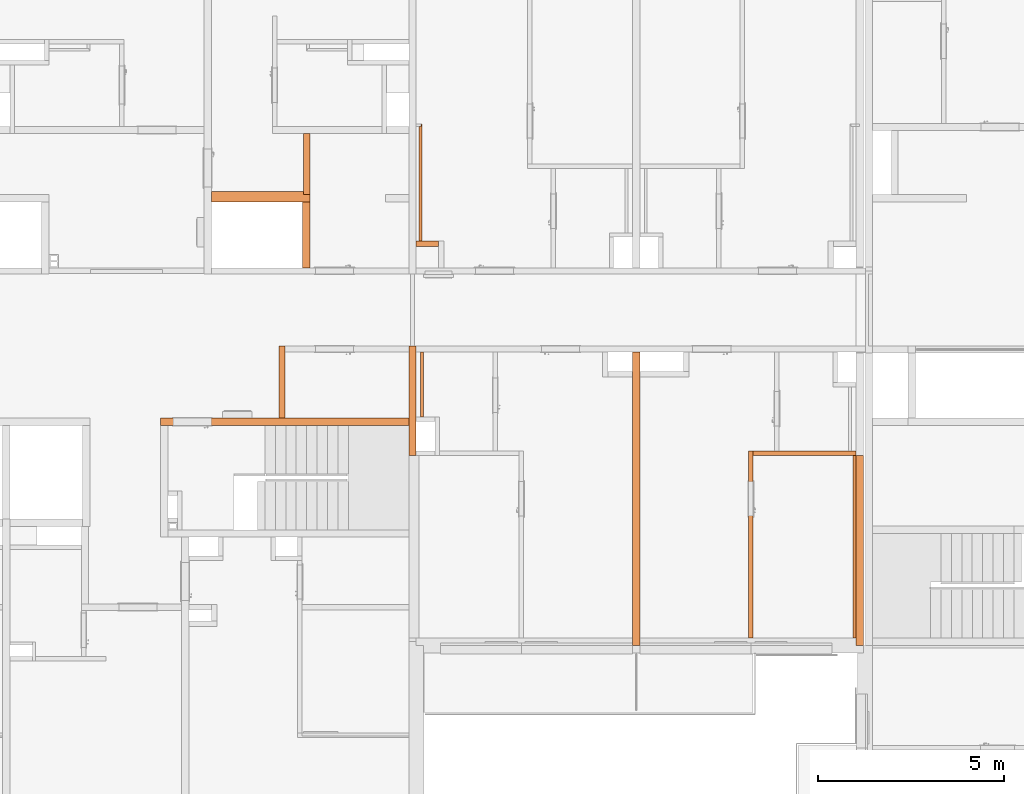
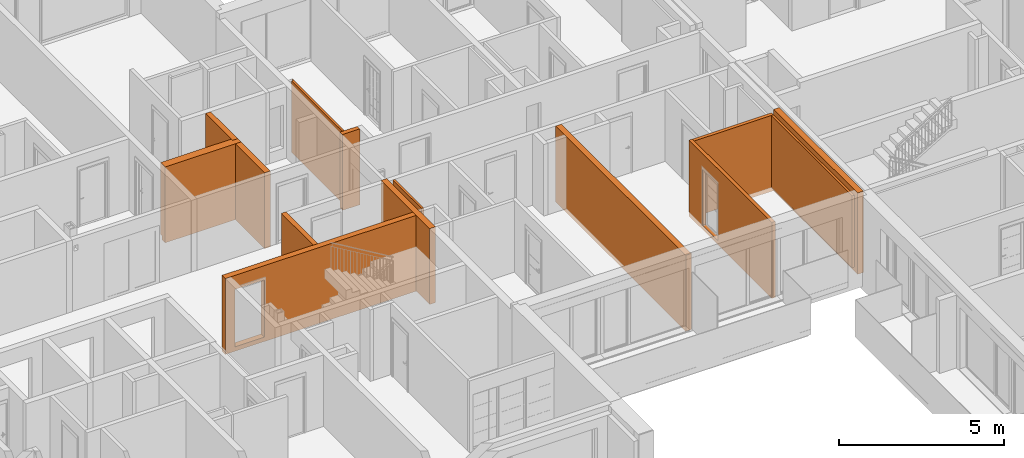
# One storey, part 59 of 67: 13 proxies, 2 openings.
"""IFC2X3 building model written with IfcOpenShell, lengths in millimetres."""

from ifc_helpers import new_model, entity, si_unit, converted_unit, derived_unit, money_unit, direction, frame, origin_with_axes, origin_2d_with_axis, place, context, subcontext, project, spatial, rectangle, extrude, faceted_brep, material, material_list, type_object, element, save


model = new_model("IFC2X3")

# Units and contexts
model_context = context("Model", 3, precision=0.01, world=origin_with_axes(), true_north=direction((0.34421633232, 0.938890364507)))
body_context = subcontext(model_context, "Body", "Model", "MODEL_VIEW")
ifc_project = project(units=[si_unit("LENGTHUNIT", "METRE", prefix="MILLI"), si_unit("AREAUNIT", "SQUARE_METRE"), si_unit("VOLUMEUNIT", "CUBIC_METRE"), converted_unit("PLANEANGLEUNIT", "DEGREE", entity("IfcPlaneAngleMeasure", 0.0174532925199), si_unit("PLANEANGLEUNIT", "RADIAN"), dimensions=[0, 0, 0, 0, 0, 0, 0]), si_unit("SOLIDANGLEUNIT", "STERADIAN"), money_unit("USD"), converted_unit("TIMEUNIT", "Year", entity("IfcTimeMeasure", 31556926.0), si_unit("TIMEUNIT", "SECOND"), dimensions=[0, 0, 1, 0, 0, 0, 0]), si_unit("MASSUNIT", "GRAM", prefix="KILO"), si_unit("THERMODYNAMICTEMPERATUREUNIT", "DEGREE_CELSIUS"), si_unit("LUMINOUSINTENSITYUNIT", "LUMEN"), si_unit("ENERGYUNIT", "JOULE", prefix="MEGA"), derived_unit("THERMALCONDUCTANCEUNIT", [(si_unit("POWERUNIT", "WATT"), 1), (si_unit("LENGTHUNIT", "METRE"), -1), (si_unit("THERMODYNAMICTEMPERATUREUNIT", "KELVIN"), -1)]), derived_unit("SPECIFICHEATCAPACITYUNIT", [(si_unit("ENERGYUNIT", "JOULE"), 1), (si_unit("MASSUNIT", "GRAM", prefix="KILO"), -1), (si_unit("THERMODYNAMICTEMPERATUREUNIT", "KELVIN"), -1)]), derived_unit("MASSDENSITYUNIT", [(si_unit("MASSUNIT", "GRAM", prefix="KILO"), 1), (si_unit("VOLUMEUNIT", "CUBIC_METRE"), -1)])], contexts=[model_context])

# Site, building, storey
site_placement = place(None, origin_with_axes())
site = spatial("IfcSite", under=ifc_project, at=site_placement, Name="USTRONIE MORSKIE", CompositionType="ELEMENT")
building_placement = place(site_placement, origin_with_axes())
building = spatial("IfcBuilding", under=site, at=building_placement, Name="Budynek", CompositionType="ELEMENT")
storey_placement = place(building_placement, frame((0.0, 0.0, 4000.0), z_axis=(0.0, 0.0, 1.0), x_axis=(1.0, 0.0, 0.0)))
storey = spatial("IfcBuildingStorey", under=building, at=storey_placement, Name="PIĘTRO 1", CompositionType="ELEMENT", Elevation=4000.0)

# Proxy
ifc_material_1 = material(Name="Bloczki silikatowe")
building_element_proxy_type_1 = type_object("IfcBuildingElementProxyType", Name="Bloczki silikatowe 120", PredefinedType="NOTDEFINED")
proxy_1_placement = place(storey_placement, frame((408317.920919, 731891.199132, -160.0), z_axis=(0.0, 0.0, 1.0), x_axis=(-1.0, 0.0, 0.0)))
element("IfcBuildingElementProxy", 1, at=proxy_1_placement, inside=storey, type_object=building_element_proxy_type_1, material=ifc_material_1, Name="SW-04", context=body_context, shape_type="Brep", body=[
    faceted_brep([(2860.01935038, 0.0, 2800.0), (100.0, 0.0, 2800.0), (100.0, -120.0, 2800.0), (2860.01935038, -120.0, 2800.0), (2860.01935038, 0.0, 0.0), (100.0, 0.0, 0.0), (100.0, -120.0, 0.0), (2860.01935038, -120.0, 0.0)], [[[0, 1, 2, 3]], [[4, 5, 1, 0]], [[5, 6, 2, 1]], [[3, 2, 6, 7]], [[4, 0, 3, 7]], [[7, 6, 5, 4]]]),
])

# Proxy, opening
proxy_2_placement = place(storey_placement, frame((405397.901569, 731891.199132, -160.0), z_axis=(0.0, 0.0, 1.0), x_axis=(0.0, -1.0, 0.0)))
proxy_2 = element("IfcBuildingElementProxy", 2, at=proxy_2_placement, inside=storey, type_object=building_element_proxy_type_1, material=ifc_material_1, Name="SW-04", context=body_context, shape_type="Brep", body=[
    faceted_brep([(4890.00009633, -60.0, 2800.0), (4890.00009633, 60.0, 2800.0), (-120.0, 60.0, 2800.0), (-120.0, -60.0, 2800.0), (4890.00009633, -60.0, 0.0), (4890.00009633, 60.0, 0.0), (-120.0, 60.0, 0.0), (-120.0, -60.0, 0.0)], [[[0, 1, 2, 3]], [[1, 0, 4, 5]], [[1, 5, 6, 2]], [[7, 3, 2, 6]], [[4, 0, 3, 7]], [[5, 4, 7, 6]]]),
])
opening_1_placement = place(proxy_2_placement, frame((1160.00038806, 0.0, 160.0), z_axis=(0.0, 0.0, 1.0), x_axis=(1.0, 0.0, 0.0)))
element("IfcOpeningElement", 3, at=opening_1_placement, cuts=proxy_2, Name="Dw.3", context=body_context, shape_type="SweptSolid", body=[
    extrude(rectangle(XDim=920.0, YDim=2070.0, at=origin_2d_with_axis()), frame((0.0, 120.0, 1035.0), z_axis=(0.0, 1.0, 0.0), x_axis=(-1.0, 0.0, 0.0)), (0.0, 0.0, -1.0), 360.0),
    extrude(rectangle(XDim=994.0, YDim=2177.0, at=origin_2d_with_axis()), frame((0.0, 60.0, 1088.5), z_axis=(0.0, 1.0, 0.0), x_axis=(-1.0, 0.0, 0.0)), (0.0, 0.0, 1.0), 120.0),
    extrude(rectangle(XDim=994.0, YDim=2177.0, at=origin_2d_with_axis()), frame((0.0, -60.0, 1088.5), z_axis=(0.0, -1.0, 0.0), x_axis=(-1.0, 0.0, 0.0)), (0.0, 0.0, 1.0), 120.0),
])

# Proxies
building_element_proxy_type_2 = type_object("IfcBuildingElementProxyType", Name="Bloczki silikatowe 180", PredefinedType="NOTDEFINED")
proxy_3_placement = place(storey_placement, frame((393567.920919, 738801.199036, -160.0), z_axis=(0.0, 0.0, 1.0), x_axis=(0.0, 1.0, 0.0)))
element("IfcBuildingElementProxy", 4, at=proxy_3_placement, inside=storey, type_object=building_element_proxy_type_2, material=ifc_material_1, Name="SW-02", context=body_context, shape_type="Brep", body=[
    faceted_brep([(1740.0, 180.0, 0.0), (1740.0, 180.0, 2800.0), (1740.0, 0.0, 2800.0), (1740.0, 0.0, 0.0), (100.0, 180.0, 0.0), (100.0, 180.0, 2800.0), (100.0, 0.0, 2800.0), (100.0, 0.0, 0.0)], [[[0, 1, 2, 3]], [[4, 5, 1, 0]], [[5, 6, 2, 1]], [[3, 2, 6, 7]], [[4, 0, 3, 7]], [[7, 6, 5, 4]]]),
])
ifc_material_2 = material(Name="-Pustka powietrzna")
ifc_material_3 = material(Name="Płyta GK")
ifc_material_list_1 = material_list([ifc_material_2, ifc_material_3, ifc_material_3])
building_element_proxy_type_3 = type_object("IfcBuildingElementProxyType", Name="330-SD GK 2-warstwy 75", PredefinedType="NOTDEFINED")
proxy_4_placement = place(storey_placement, frame((396547.898799, 737501.202288, -180.0), z_axis=(0.0, 0.0, 1.0), x_axis=(0.0, 1.0, 0.0)))
element("IfcBuildingElementProxy", 5, at=proxy_4_placement, inside=storey, type_object=building_element_proxy_type_3, material=ifc_material_list_1, Name="Ściana-009", context=body_context, shape_type="Brep", body=[
    faceted_brep([(150.0, 0.0, 180.0), (3220.00000001, 0.0, 180.0), (3220.00000001, 0.0, 2820.0), (150.0, 0.0, 2820.0), (3220.00000001, 50.0, 180.0), (150.0, 50.0, 180.0), (3220.00000001, 50.0, 2820.0), (150.0, 50.0, 2820.0)], [[[0, 1, 2, 3]], [[4, 1, 0, 5]], [[1, 4, 6, 2]], [[6, 7, 3, 2]], [[5, 0, 3, 7]], [[4, 5, 7, 6]]]),
    faceted_brep([(150.0, -12.5, 165.0), (3270.00000001, -12.5, 165.0), (3270.00000001, -12.5, 2820.0), (150.0, -12.5, 2820.0), (3270.00000001, 0.0, 165.0), (150.0, 0.0, 165.0), (3270.00000001, 0.0, 2820.0), (150.0, 0.0, 2820.0)], [[[0, 1, 2, 3]], [[4, 1, 0, 5]], [[1, 4, 6, 2]], [[6, 7, 3, 2]], [[5, 0, 3, 7]], [[4, 5, 7, 6]]]),
    faceted_brep([(150.0, -25.0, 165.0), (3282.50000001, -25.0, 165.0), (3282.50000001, -25.0, 2820.0), (150.0, -25.0, 2820.0), (3282.50000001, -12.5, 165.0), (150.0, -12.5, 165.0), (3282.50000001, -12.5, 2820.0), (150.0, -12.5, 2820.0)], [[[0, 1, 2, 3]], [[4, 1, 0, 5]], [[1, 4, 6, 2]], [[6, 7, 3, 2]], [[5, 0, 3, 7]], [[4, 5, 7, 6]]]),
])
proxy_5_placement = place(storey_placement, frame((396562.908566, 732811.206636, -160.0), z_axis=(0.0, 0.0, 1.0), x_axis=(0.0, 1.0, 0.0)))
element("IfcBuildingElementProxy", 6, at=proxy_5_placement, inside=storey, type_object=building_element_proxy_type_3, material=ifc_material_list_1, Name="Ściana-009", context=body_context, shape_type="Brep", body=[
    faceted_brep([(120.0001558, -25.0, 160.0), (1859.99610152, -25.0, 160.0), (1859.99610152, -25.0, 2800.0), (120.0001558, -25.0, 2800.0), (1859.99611702, 25.0, 160.0), (120.00171322, 25.0, 160.0), (1859.99611702, 25.0, 2800.0), (120.00171322, 25.0, 2800.0)], [[[0, 1, 2, 3]], [[4, 1, 0, 5]], [[1, 4, 6, 2]], [[2, 6, 7, 3]], [[5, 0, 3, 7]], [[4, 5, 7, 6]]]),
    faceted_brep([(119.999766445, -37.5, 145.0), (1859.99609764, -37.5, 145.0), (1859.99609764, -37.5, 2800.0), (119.999766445, -37.5, 2800.0), (1859.99610152, -25.0, 145.0), (120.0001558, -25.0, 145.0), (1859.99610152, -25.0, 2800.0), (120.0001558, -25.0, 2800.0)], [[[0, 1, 2, 3]], [[4, 1, 0, 5]], [[1, 4, 6, 2]], [[2, 6, 7, 3]], [[5, 0, 3, 7]], [[4, 5, 7, 6]]]),
    faceted_brep([(119.99937709, -50.0, 145.0), (1859.99609377, -50.0, 145.0), (1859.99609377, -50.0, 2800.0), (119.99937709, -50.0, 2800.0), (1859.99609764, -37.5, 145.0), (119.999766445, -37.5, 145.0), (1859.99609764, -37.5, 2800.0), (119.999766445, -37.5, 2800.0)], [[[0, 1, 2, 3]], [[4, 1, 0, 5]], [[1, 4, 6, 2]], [[2, 6, 7, 3]], [[5, 0, 3, 7]], [[4, 5, 7, 6]]]),
])
building_element_proxy_type_4 = type_object("IfcBuildingElementProxyType", Name="Bloczki silikatowe 150", PredefinedType="NOTDEFINED")
proxy_6_placement = place(storey_placement, frame((397017.903884, 737501.202288, -160.0), z_axis=(0.0, 0.0, 1.0), x_axis=(-1.0, 0.0, 0.0)))
element("IfcBuildingElementProxy", 7, at=proxy_6_placement, inside=storey, type_object=building_element_proxy_type_4, material=ifc_material_1, Name="SW-03", context=body_context, shape_type="Brep", body=[
    faceted_brep([(599.991772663, 0.0, 0.0), (599.991589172, -150.0, 0.0), (0.00467226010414, -150.0, 0.0), (0.0, 0.0, 0.0), (599.991772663, 0.0, 2800.0), (599.991589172, -150.0, 2800.0), (0.00467226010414, -150.0, 2800.0), (0.0, 0.0, 2800.0)], [[[0, 1, 2, 3]], [[1, 0, 4, 5]], [[1, 5, 6, 2]], [[7, 3, 2, 6]], [[4, 0, 3, 7]], [[5, 4, 7, 6]]]),
])
ifc_material_4 = material(Name="Beton konstrukcyjny B25")
building_element_proxy_type_5 = type_object("IfcBuildingElementProxyType", Name="Beton konstrukcyjny B25 200", PredefinedType="NOTDEFINED")
proxy_7_placement = place(storey_placement, frame((402317.920919, 726901.199036, -160.0), z_axis=(0.0, 0.0, 1.0), x_axis=(0.0, 1.0, 0.0)))
element("IfcBuildingElementProxy", 8, at=proxy_7_placement, inside=storey, type_object=building_element_proxy_type_5, material=ifc_material_4, Name="SW-01", context=body_context, shape_type="Brep", body=[
    faceted_brep([(-100.0, -100.0, 2800.0), (7770.00189405, -100.0, 2800.0), (7770.00195604, 100.0, 2800.0), (-100.0, 100.0, 2800.0), (-100.0, -100.0, 0.0), (7770.00189405, -100.0, 0.0), (7770.00195604, 100.0, 0.0), (-100.0, 100.0, 0.0)], [[[0, 1, 2, 3]], [[4, 5, 1, 0]], [[6, 2, 1, 5]], [[3, 2, 6, 7]], [[7, 4, 0, 3]], [[7, 6, 5, 4]]]),
])
proxy_8_placement = place(storey_placement, frame((396317.920919, 731891.199132, -160.0), z_axis=(0.0, 0.0, 1.0), x_axis=(0.0, 1.0, 0.0)))
element("IfcBuildingElementProxy", 9, at=proxy_8_placement, inside=storey, type_object=building_element_proxy_type_5, material=ifc_material_4, Name="SW-01", context=body_context, shape_type="Brep", body=[
    faceted_brep([(2940.00371943, 100.0, 2800.0), (2860.00368844, 100.0, 2800.0), (2860.00368844, -100.0, 2800.0), (2940.00365744, -100.0, 2800.0), (0.0, 100.0, 0.0), (0.0, 100.0, 2800.0), (2940.00371943, 100.0, 0.0), (0.0, -100.0, 2800.0), (0.0, -100.0, 0.0), (2940.00365744, -100.0, 0.0)], [[[0, 1, 2, 3]], [[4, 5, 1, 0, 6]], [[5, 7, 2, 1]], [[3, 2, 7, 8, 9]], [[3, 9, 6, 0]], [[8, 7, 5, 4]], [[9, 8, 4, 6]]]),
])

# Proxy, opening
proxy_9_placement = place(storey_placement, frame((389657.920919, 732801.199036, -160.0), z_axis=(0.0, 0.0, 1.0), x_axis=(1.0, 0.0, 0.0)))
proxy_9 = element("IfcBuildingElementProxy", 10, at=proxy_9_placement, inside=storey, type_object=building_element_proxy_type_5, material=ifc_material_4, Name="SW-01", context=body_context, shape_type="Brep", body=[
    faceted_brep([(-100.0, 100.0, 2800.0), (0.0, 100.0, 2800.0), (6560.0, 100.0, 2800.0), (6560.0, 100.0, 0.0), (-100.0, 100.0, 0.0), (-100.0, -100.0, 2800.0), (0.0, -100.0, 2800.0), (6560.0, -100.0, 2800.0), (6560.0, -100.0, 0.0), (-100.0, -100.0, 0.0)], [[[0, 1, 2, 3, 4]], [[5, 6, 1, 0]], [[6, 7, 2, 1]], [[3, 2, 7, 8]], [[3, 8, 9, 4]], [[4, 9, 5, 0]], [[8, 7, 6, 5, 9]]]),
])
opening_2_placement = place(proxy_9_placement, frame((750.0, 0.0, 160.0), z_axis=(0.0, 0.0, 1.0), x_axis=(1.0, 0.0, 0.0)))
element("IfcOpeningElement", 11, at=opening_2_placement, cuts=proxy_9, Name="Dw.1'", context=body_context, shape_type="SweptSolid", body=[
    extrude(rectangle(XDim=1020.0, YDim=2120.0, at=origin_2d_with_axis()), frame((0.0, 200.0, 1060.0), z_axis=(0.0, -1.0, 0.0), x_axis=(-1.0, 0.0, 0.0)), (0.0, 0.0, 1.0), 600.0),
    extrude(rectangle(XDim=1094.0, YDim=2227.0, at=origin_2d_with_axis()), frame((0.0, 100.0, 1113.5), z_axis=(0.0, -1.0, 0.0), x_axis=(-1.0, 0.0, 0.0)), (0.0, 0.0, -1.0), 200.0),
    extrude(rectangle(XDim=1094.0, YDim=2227.0, at=origin_2d_with_axis()), frame((0.0, -100.0, 1113.5), z_axis=(0.0, 1.0, 0.0), x_axis=(-1.0, 0.0, 0.0)), (0.0, 0.0, -1.0), 200.0),
])

# Proxies
proxy_10_placement = place(storey_placement, frame((393367.920919, 736851.199036, -160.0), z_axis=(0.0, 0.0, 1.0), x_axis=(0.0, 1.0, 0.0)))
element("IfcBuildingElementProxy", 12, at=proxy_10_placement, inside=storey, type_object=building_element_proxy_type_5, material=ifc_material_4, Name="SW-01", context=body_context, shape_type="Brep", body=[
    faceted_brep([(1850.0, 0.0, 0.0), (1850.0, 0.0, 2800.0), (1850.0, -200.0, 2800.0), (1850.0, -200.0, 0.0), (80.0, 0.0, 0.0), (80.0, 0.0, 2800.0), (80.0, -200.0, 2800.0), (80.0, -200.0, 0.0)], [[[0, 1, 2, 3]], [[4, 5, 1, 0]], [[5, 6, 2, 1]], [[3, 2, 6, 7]], [[4, 0, 3, 7]], [[7, 6, 5, 4]]]),
])
building_element_proxy_type_6 = type_object("IfcBuildingElementProxyType", Name="Beton konstrukcyjny B25 160", PredefinedType="NOTDEFINED")
proxy_11_placement = place(storey_placement, frame((392817.920919, 732801.199036, -160.0), z_axis=(0.0, 0.0, 1.0), x_axis=(0.0, 1.0, 0.0)))
element("IfcBuildingElementProxy", 13, at=proxy_11_placement, inside=storey, type_object=building_element_proxy_type_6, material=ifc_material_4, Name="SW-01", context=body_context, shape_type="Brep", body=[
    faceted_brep([(2030.0048448, -80.0, 2800.0), (2030.0048944, 80.0, 2800.0), (100.0, 80.0, 2800.0), (100.0, -80.0, 2800.0), (2030.0048448, -80.0, 0.0), (2030.0048944, 80.0, 0.0), (100.0, 80.0, 0.0), (100.0, -80.0, 0.0)], [[[0, 1, 2, 3]], [[1, 0, 4, 5]], [[1, 5, 6, 2]], [[7, 3, 2, 6]], [[4, 0, 3, 7]], [[5, 4, 7, 6]]]),
])
ifc_material_5 = material(Name="Izolacja akustyczna")
ifc_material_list_2 = material_list([ifc_material_3, ifc_material_5, ifc_material_4])
building_element_proxy_type_7 = type_object("IfcBuildingElementProxyType", Name="20+5 AKU 275", PredefinedType="NOTDEFINED")
proxy_12_placement = place(storey_placement, frame((390817.920919, 738801.199036, -160.0), z_axis=(0.0, 0.0, 1.0), x_axis=(1.0, 0.0, 0.0)))
element("IfcBuildingElementProxy", 14, at=proxy_12_placement, inside=storey, type_object=building_element_proxy_type_7, material=ifc_material_list_2, Name="SW-01", context=body_context, shape_type="Brep", body=[
    faceted_brep([(99.9999999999, 175.0, 2800.0), (2570.0, 175.0, 2800.0), (2570.0, 175.0, 145.0), (100.0, 175.0, 145.0), (2570.0, 150.0, 2800.0), (99.9999999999, 150.0, 2800.0), (2570.0, 150.0, 145.0), (100.0, 150.0, 145.0)], [[[0, 1, 2, 3]], [[4, 1, 0, 5]], [[1, 4, 6, 2]], [[3, 2, 6, 7]], [[3, 7, 5, 0]], [[4, 5, 7, 6]]]),
    faceted_brep([(99.9999999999, 150.0, 2800.0), (2570.0, 150.0, 2800.0), (2570.0, 150.0, 145.0), (100.0, 150.0, 145.0), (2570.0, 100.0, 2800.0), (99.9999999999, 100.0, 2800.0), (2570.0, 100.0, 145.0), (100.0, 100.0, 145.0)], [[[0, 1, 2, 3]], [[4, 1, 0, 5]], [[1, 4, 6, 2]], [[3, 2, 6, 7]], [[3, 7, 5, 0]], [[4, 5, 7, 6]]]),
    faceted_brep([(99.9999999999, 100.0, 2800.0), (2750.0, 100.0, 2800.0), (2750.0, 100.0, 0.0), (100.0, 100.0, 0.0), (2750.0, -100.0, 2800.0), (99.9999999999, -100.0, 2800.0), (2750.0, -100.0, 0.0), (100.0, -100.0, 0.0)], [[[0, 1, 2, 3]], [[4, 1, 0, 5]], [[1, 4, 6, 2]], [[6, 7, 3, 2]], [[5, 0, 3, 7]], [[4, 5, 7, 6]]]),
])
proxy_13_placement = place(storey_placement, frame((408317.920919, 726901.199036, -160.0), z_axis=(0.0, 0.0, 1.0), x_axis=(0.0, 1.0, 0.0)))
element("IfcBuildingElementProxy", 15, at=proxy_13_placement, inside=storey, type_object=building_element_proxy_type_7, material=ifc_material_list_2, Name="Œciana-007", context=body_context, shape_type="Brep", body=[
    faceted_brep([(4990.00009633, 175.0, 2800.0), (4990.00009633, 150.0, 2800.0), (4990.00009633, 150.0, 145.0), (4990.00009633, 175.0, 145.0), (100.0, 150.0, 2800.0), (100.0, 175.0, 2800.0), (100.0, 150.0, 145.0), (100.0, 175.0, 145.0)], [[[0, 1, 2, 3]], [[4, 1, 0, 5]], [[1, 4, 6, 2]], [[3, 2, 6, 7]], [[5, 0, 3, 7]], [[4, 5, 7, 6]]]),
    faceted_brep([(4990.00009633, 150.0, 2800.0), (4990.00009483, 100.084247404, 2800.0), (4990.00009633, 99.9999390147, 145.0), (4990.00009633, 150.0, 145.0), (100.0, 99.9974538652, 2800.0), (100.0, 150.0, 2800.0), (100.0, 99.9974538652, 145.0), (100.0, 150.0, 145.0)], [[[0, 1, 2, 3]], [[4, 1, 0, 5]], [[1, 4, 6, 2]], [[7, 3, 2, 6]], [[5, 0, 3, 7]], [[4, 5, 7, 6]]]),
    faceted_brep([(4990.00009633, -100.0, 3000.0), (4990.00009633, 100.0, 3000.0), (-100.0, 100.0, 3000.0), (-100.0, -100.0, 3000.0), (4990.00009633, -100.0, 0.0), (4990.00009633, 100.0, 0.0), (-100.0, 100.0, 0.0), (-100.0, -100.0, 0.0)], [[[0, 1, 2, 3]], [[0, 4, 5, 1]], [[1, 5, 6, 2]], [[6, 7, 3, 2]], [[4, 0, 3, 7]], [[5, 4, 7, 6]]]),
])

save(model, "model.ifc")
